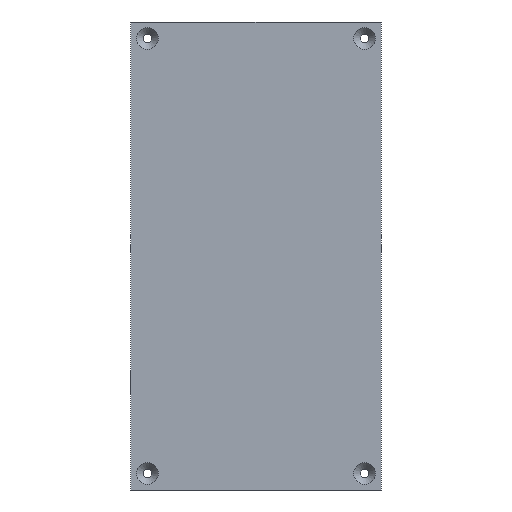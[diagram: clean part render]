
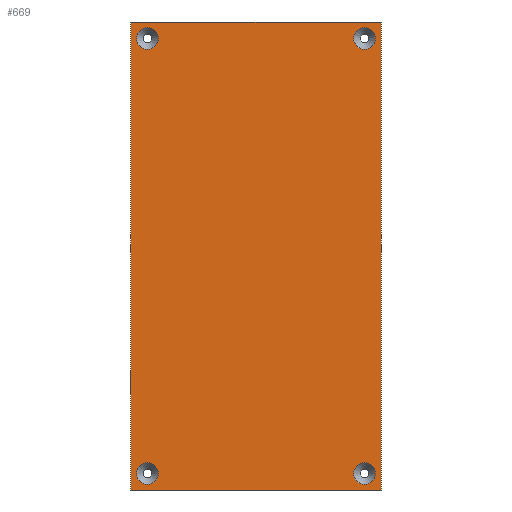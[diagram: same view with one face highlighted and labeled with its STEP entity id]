
A CAD part, front view. The second image highlights one B-rep face of the part: STEP entity #669.
In plain terms, the highlighted planar face has unit normal (0, -1, 0).
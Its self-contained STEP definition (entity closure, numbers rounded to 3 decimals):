
#26=FACE_BOUND('',#122,.T.);
#27=FACE_BOUND('',#123,.T.);
#28=FACE_BOUND('',#124,.T.);
#29=FACE_BOUND('',#125,.T.);
#46=PLANE('',#751);
#80=FACE_OUTER_BOUND('',#121,.T.);
#121=EDGE_LOOP('',(#581,#582,#583,#584));
#122=EDGE_LOOP('',(#585,#586));
#123=EDGE_LOOP('',(#587,#588));
#124=EDGE_LOOP('',(#589,#590));
#125=EDGE_LOOP('',(#591,#592));
#189=LINE('',#1121,#254);
#190=LINE('',#1123,#255);
#191=LINE('',#1125,#256);
#192=LINE('',#1126,#257);
#254=VECTOR('',#923,10.);
#255=VECTOR('',#924,10.);
#256=VECTOR('',#925,10.);
#257=VECTOR('',#926,10.);
#270=CIRCLE('',#711,3.81);
#271=CIRCLE('',#712,3.81);
#275=CIRCLE('',#718,3.81);
#276=CIRCLE('',#719,3.81);
#280=CIRCLE('',#725,3.81);
#281=CIRCLE('',#726,3.81);
#285=CIRCLE('',#732,3.81);
#286=CIRCLE('',#733,3.81);
#314=VERTEX_POINT('',#1006);
#315=VERTEX_POINT('',#1007);
#319=VERTEX_POINT('',#1020);
#320=VERTEX_POINT('',#1021);
#324=VERTEX_POINT('',#1034);
#325=VERTEX_POINT('',#1035);
#329=VERTEX_POINT('',#1048);
#330=VERTEX_POINT('',#1049);
#354=VERTEX_POINT('',#1119);
#355=VERTEX_POINT('',#1120);
#356=VERTEX_POINT('',#1122);
#357=VERTEX_POINT('',#1124);
#383=EDGE_CURVE('',#314,#315,#270,.T.);
#384=EDGE_CURVE('',#315,#314,#271,.T.);
#390=EDGE_CURVE('',#319,#320,#275,.T.);
#391=EDGE_CURVE('',#320,#319,#276,.T.);
#397=EDGE_CURVE('',#324,#325,#280,.T.);
#398=EDGE_CURVE('',#325,#324,#281,.T.);
#404=EDGE_CURVE('',#329,#330,#285,.T.);
#405=EDGE_CURVE('',#330,#329,#286,.T.);
#439=EDGE_CURVE('',#354,#355,#189,.T.);
#440=EDGE_CURVE('',#355,#356,#190,.T.);
#441=EDGE_CURVE('',#356,#357,#191,.T.);
#442=EDGE_CURVE('',#357,#354,#192,.T.);
#581=ORIENTED_EDGE('',*,*,#439,.T.);
#582=ORIENTED_EDGE('',*,*,#440,.T.);
#583=ORIENTED_EDGE('',*,*,#441,.T.);
#584=ORIENTED_EDGE('',*,*,#442,.T.);
#585=ORIENTED_EDGE('',*,*,#383,.T.);
#586=ORIENTED_EDGE('',*,*,#384,.T.);
#587=ORIENTED_EDGE('',*,*,#390,.T.);
#588=ORIENTED_EDGE('',*,*,#391,.T.);
#589=ORIENTED_EDGE('',*,*,#397,.T.);
#590=ORIENTED_EDGE('',*,*,#398,.T.);
#591=ORIENTED_EDGE('',*,*,#404,.T.);
#592=ORIENTED_EDGE('',*,*,#405,.T.);
#669=ADVANCED_FACE('',(#80,#26,#27,#28,#29),#46,.T.);
#711=AXIS2_PLACEMENT_3D('',#1008,#809,#810);
#712=AXIS2_PLACEMENT_3D('',#1009,#811,#812);
#718=AXIS2_PLACEMENT_3D('',#1022,#825,#826);
#719=AXIS2_PLACEMENT_3D('',#1023,#827,#828);
#725=AXIS2_PLACEMENT_3D('',#1036,#841,#842);
#726=AXIS2_PLACEMENT_3D('',#1037,#843,#844);
#732=AXIS2_PLACEMENT_3D('',#1050,#857,#858);
#733=AXIS2_PLACEMENT_3D('',#1051,#859,#860);
#751=AXIS2_PLACEMENT_3D('',#1118,#921,#922);
#809=DIRECTION('center_axis',(0.,1.,0.));
#810=DIRECTION('ref_axis',(1.,0.,0.));
#811=DIRECTION('center_axis',(0.,1.,0.));
#812=DIRECTION('ref_axis',(1.,0.,0.));
#825=DIRECTION('center_axis',(0.,1.,0.));
#826=DIRECTION('ref_axis',(1.,0.,0.));
#827=DIRECTION('center_axis',(0.,1.,0.));
#828=DIRECTION('ref_axis',(1.,0.,0.));
#841=DIRECTION('center_axis',(0.,1.,0.));
#842=DIRECTION('ref_axis',(1.,0.,0.));
#843=DIRECTION('center_axis',(0.,1.,0.));
#844=DIRECTION('ref_axis',(1.,0.,0.));
#857=DIRECTION('center_axis',(0.,1.,0.));
#858=DIRECTION('ref_axis',(1.,0.,0.));
#859=DIRECTION('center_axis',(0.,1.,0.));
#860=DIRECTION('ref_axis',(1.,0.,0.));
#921=DIRECTION('center_axis',(0.,-1.,0.));
#922=DIRECTION('ref_axis',(0.,0.,-1.));
#923=DIRECTION('',(0.,0.,-1.));
#924=DIRECTION('',(1.,0.,0.));
#925=DIRECTION('',(0.,0.,1.));
#926=DIRECTION('',(-1.,0.,0.));
#1006=CARTESIAN_POINT('',(-77.69,-3.,-157.5));
#1007=CARTESIAN_POINT('',(-85.31,-3.,-157.5));
#1008=CARTESIAN_POINT('Origin',(-81.5,-3.,-157.5));
#1009=CARTESIAN_POINT('Origin',(-81.5,-3.,-157.5));
#1020=CARTESIAN_POINT('',(-77.69,-3.,-5.75));
#1021=CARTESIAN_POINT('',(-85.31,-3.,-5.75));
#1022=CARTESIAN_POINT('Origin',(-81.5,-3.,-5.75));
#1023=CARTESIAN_POINT('Origin',(-81.5,-3.,-5.75));
#1034=CARTESIAN_POINT('',(-1.94,-3.,-157.5));
#1035=CARTESIAN_POINT('',(-9.56,-3.,-157.5));
#1036=CARTESIAN_POINT('Origin',(-5.75,-3.,-157.5));
#1037=CARTESIAN_POINT('Origin',(-5.75,-3.,-157.5));
#1048=CARTESIAN_POINT('',(-1.94,-3.,-5.75));
#1049=CARTESIAN_POINT('',(-9.56,-3.,-5.75));
#1050=CARTESIAN_POINT('Origin',(-5.75,-3.,-5.75));
#1051=CARTESIAN_POINT('Origin',(-5.75,-3.,-5.75));
#1118=CARTESIAN_POINT('Origin',(-43.625,-3.,-81.625));
#1119=CARTESIAN_POINT('',(-87.25,-3.,0.));
#1120=CARTESIAN_POINT('',(-87.25,-3.,-163.25));
#1121=CARTESIAN_POINT('',(-87.25,-3.,0.));
#1122=CARTESIAN_POINT('',(0.,-3.,-163.25));
#1123=CARTESIAN_POINT('',(-87.25,-3.,-163.25));
#1124=CARTESIAN_POINT('',(0.,-3.,0.));
#1125=CARTESIAN_POINT('',(0.,-3.,-163.25));
#1126=CARTESIAN_POINT('',(0.,-3.,0.));
